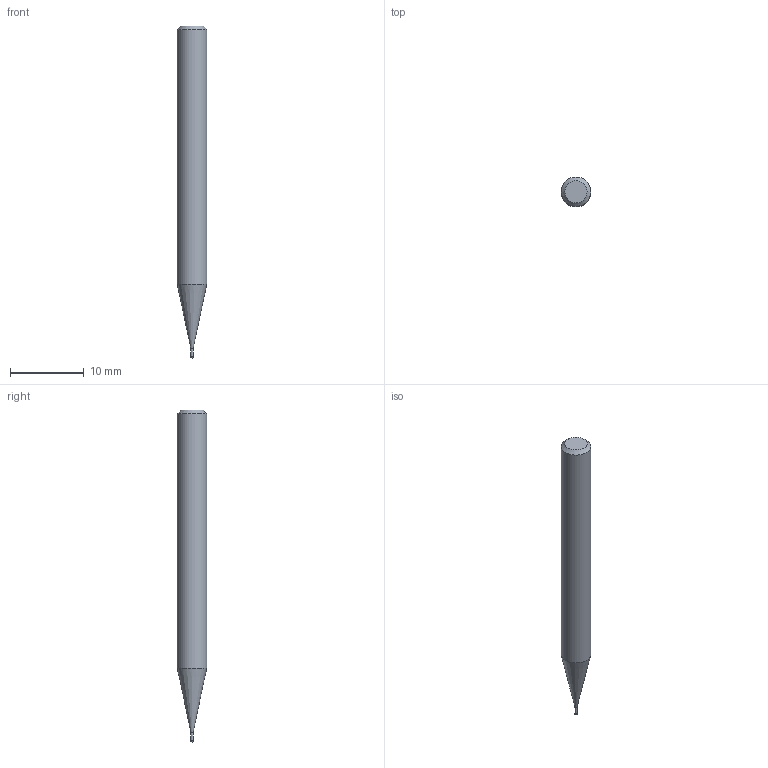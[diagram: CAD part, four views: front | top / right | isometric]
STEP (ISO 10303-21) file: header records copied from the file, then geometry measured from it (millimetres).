
FILE_DESCRIPTION((''),'2;1');
FILE_NAME('C:\Users\nsx150\AppData\Local\Temp\Mastercam 2021\AP8FW4WOPM\TEMP.step','2024-10-16T18:39:54',(''),(''),'STEP Write','Mastercam 2021 ... CNC Software, Inc.','');
FILE_SCHEMA(('AUTOMOTIVE_DESIGN'));
Length unit declared in the file: millimetre
Products named in the file (1): None
Bounding box: 4 x 4 x 45 mm (x, y, z)
Volume: 477.9 mm3; surface area: 509.8 mm2
Topology: 2 solids, 2 shells, 9 faces, 14 edges, 8 vertices
Faces by surface type: plane 3, cylinder 3, cone 2, sphere 1
Full cylindrical faces by diameter (mm): 0.28 x1, 0.3 x1, 4 x1
Entity records: 211 total; most frequent: DIRECTION 36, CARTESIAN_POINT 25, AXIS2_PLACEMENT_3D 18, ORIENTED_EDGE 14, EDGE_LOOP 14, STYLED_ITEM 12, ADVANCED_FACE 9, FACE_BOUND 8
